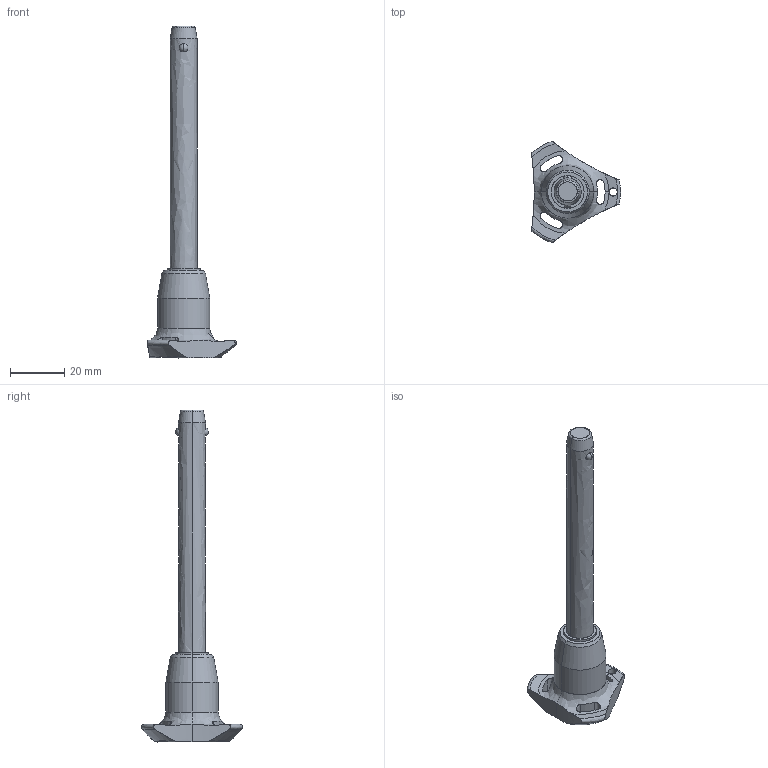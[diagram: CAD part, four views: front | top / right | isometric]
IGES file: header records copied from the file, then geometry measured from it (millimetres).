
Start section: SolidWorks IGES file using analytic representation for surfaces
Global section: file name: C:\Users\ianosborn\Desktop\QR1714_v2\QR1714_v2_20251112_IGES\QR1714.M10-080-S.igs; native system: SolidWorks 2019; preprocessor: SolidWorks 2019; author: IanOsborn; date: 251112.101021; units: millimetre
Bounding box: 33 x 37.51 x 122.9 mm (x, y, z)
Surface area: 6677.7 mm2 (no closed solid volume)
Topology: 0 solids, 0 shells, 65 faces, 1282 edges, 1278 vertices
Faces by surface type: revolution 50, bspline 15
